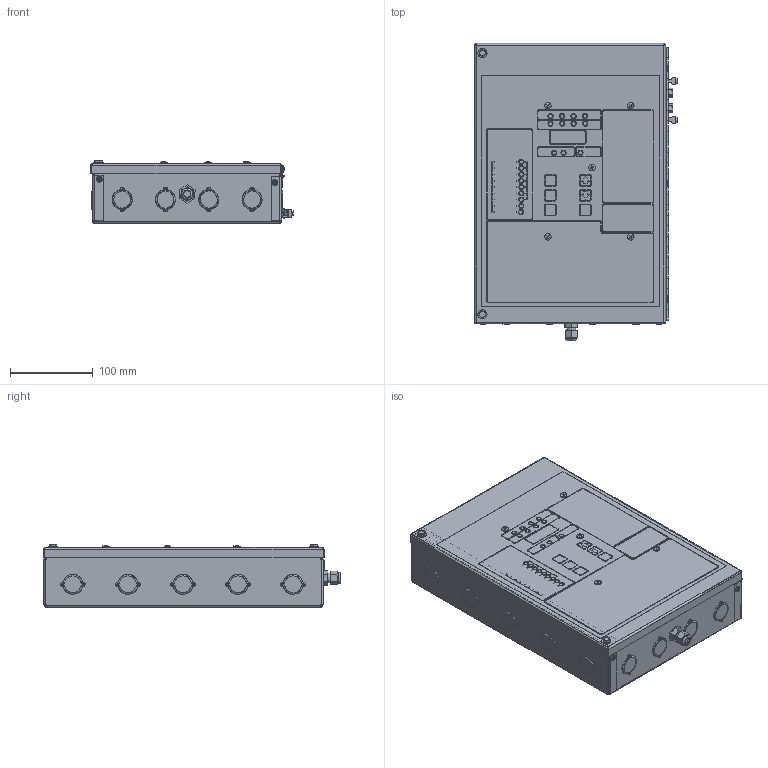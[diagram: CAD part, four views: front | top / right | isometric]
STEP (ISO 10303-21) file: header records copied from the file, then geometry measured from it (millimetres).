
FILE_DESCRIPTION (( 'STEP AP214' ), '1' );
FILE_NAME ('DC3003.STEP', '2016-07-13T18:11:41', ( 'BMC' ), ( 'Bard Manufacturing Co., Inc.' ), 'SwSTEP 2.0', 'SolidWorks 2016', '' );
FILE_SCHEMA (( 'AUTOMOTIVE_DESIGN' ));
Length unit declared in the file: inch
Products named in the file (1): DC3003
Bounding box: 245.14 x 360.16 x 77.17 mm (x, y, z)
Surface area: 668713.8 mm2 (no closed solid volume)
Topology: 0 solids, 41 shells, 2934 faces, 7596 edges, 4836 vertices
Faces by surface type: plane 1045, bspline 732, cylinder 724, cone 375, torus 44, sphere 14
Entity records: 113286 total; most frequent: CARTESIAN_POINT 41487, ORIENTED_EDGE 15144, DIRECTION 14184, EDGE_CURVE 7572, AXIS2_PLACEMENT_3D 5423, VERTEX_POINT 4836, VECTOR 3338, LINE 3338
